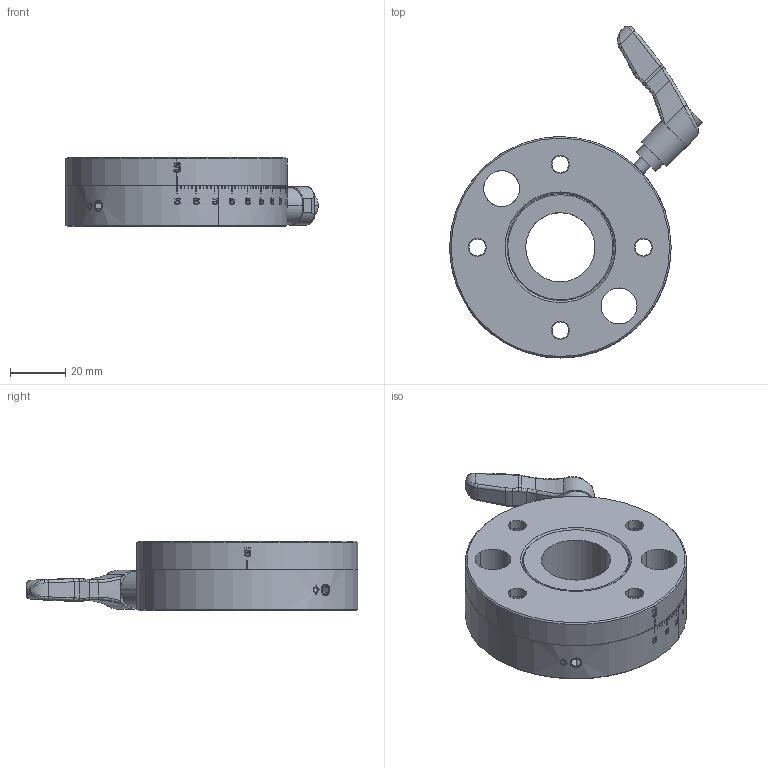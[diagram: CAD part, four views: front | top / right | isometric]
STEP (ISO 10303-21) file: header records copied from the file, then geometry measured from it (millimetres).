
FILE_DESCRIPTION (( 'STEP AP203' ), '1' );
FILE_NAME ('DS12.STEP', '2007-11-14T16:34:53', ( '' ), ( '' ), 'SwSTEP 2.0', 'SolidWorks 2007', '' );
FILE_SCHEMA (( 'CONFIG_CONTROL_DESIGN' ));
Products named in the file (3): DS12; DS12-Festteil_n_Standard; DS12-Drehteil_n_Standard
Assembly tree (2 placements, depth 2):
  DS12
    DS12-Festteil_n_Standard
    DS12-Drehteil_n_Standard
Bounding box: 91.3 x 120.02 x 25 mm (x, y, z)
Volume: 104452.9 mm3; surface area: 38071.8 mm2
Topology: 2 solids, 3 shells, 1010 faces, 2537 edges, 1661 vertices
Faces by surface type: plane 410, bspline 280, cylinder 265, cone 48, torus 7
Entity records: 57441 total; most frequent: CARTESIAN_POINT 34981, ORIENTED_EDGE 5070, DIRECTION 3722, EDGE_CURVE 2535, VERTEX_POINT 1661, AXIS2_PLACEMENT_3D 1390, EDGE_LOOP 1168, ADVANCED_FACE 1010
